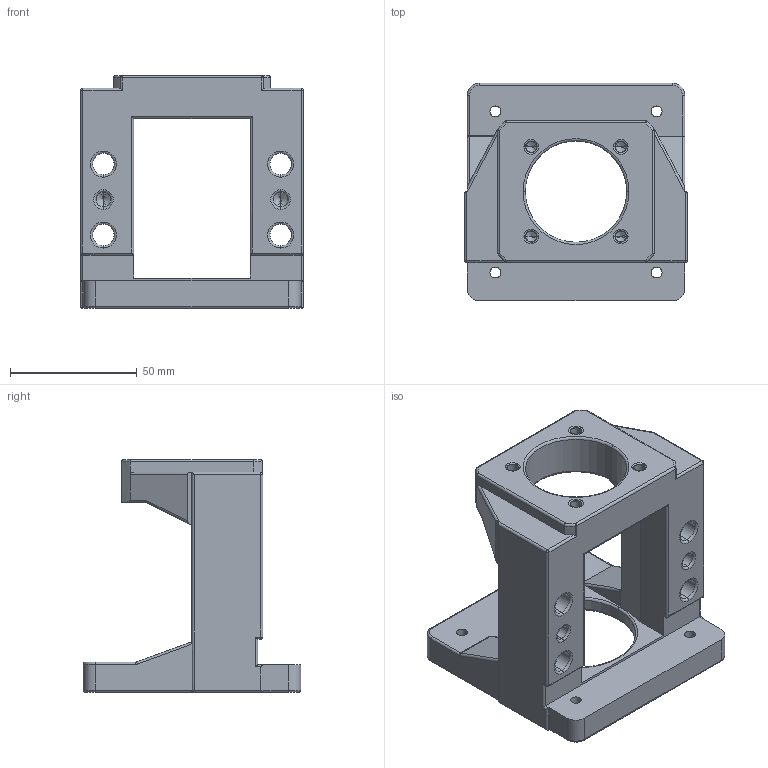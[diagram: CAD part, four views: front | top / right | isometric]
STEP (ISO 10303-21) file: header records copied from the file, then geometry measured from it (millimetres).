
FILE_DESCRIPTION (( 'STEP AP203' ), '1' );
FILE_NAME ('傳動座MBA15-EP.STEP', '2012-07-23T05:30:36', ( '' ), ( '' ), 'SwSTEP 2.0', 'SolidWorks 2012', '' );
FILE_SCHEMA (( 'CONFIG_CONTROL_DESIGN' ));
Length unit declared in the file: millimetre
Products named in the file (1): 傳動座MBA15-EP
Bounding box: 88 x 86 x 92 mm (x, y, z)
Volume: 172274.1 mm3; surface area: 43972 mm2
Topology: 1 solids, 1 shells, 239 faces, 586 edges, 340 vertices
Faces by surface type: cylinder 112, plane 49, torus 42, cone 28, sphere 8
Entity records: 7026 total; most frequent: CARTESIAN_POINT 1400, DIRECTION 1226, ORIENTED_EDGE 1132, EDGE_CURVE 566, AXIS2_PLACEMENT_3D 484, VERTEX_POINT 340, EDGE_LOOP 272, LINE 258
